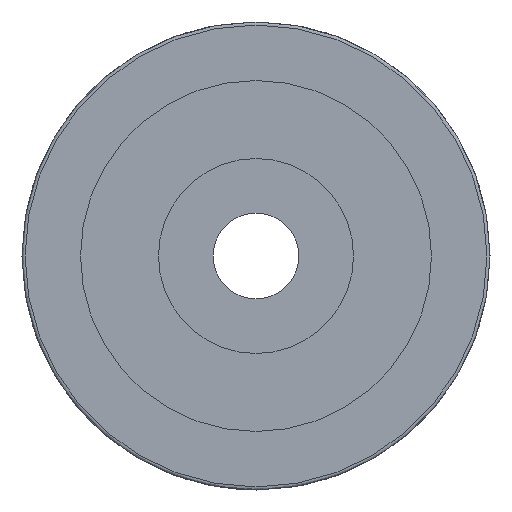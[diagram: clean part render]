
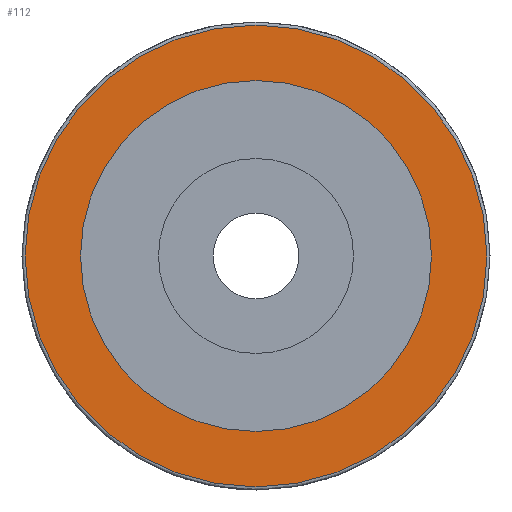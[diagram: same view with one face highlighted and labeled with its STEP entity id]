
A CAD part, left-side view. The second image highlights one B-rep face of the part: STEP entity #112.
In plain terms, the highlighted planar face has unit normal (-1, 0, 0).
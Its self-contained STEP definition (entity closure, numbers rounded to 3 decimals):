
#55=CARTESIAN_POINT('',(-525.136,-488.109,-45.));
#56=VERTEX_POINT('',#55);
#63=CARTESIAN_POINT('',(-525.136,-488.109,45.));
#64=VERTEX_POINT('',#63);
#65=CARTESIAN_POINT('',(-525.136,-488.109,0.0));
#66=DIRECTION('',(1.0,0.0,0.0));
#67=DIRECTION('',(0.0,0.0,-1.0));
#68=AXIS2_PLACEMENT_3D('',#65,#66,#67);
#69=CIRCLE('',#68,45.);
#70=EDGE_CURVE('',#64,#56,#69,.T.);
#72=CARTESIAN_POINT('',(-525.136,-488.109,0.0));
#73=DIRECTION('',(1.0,0.0,0.0));
#74=DIRECTION('',(0.0,0.0,-1.0));
#75=AXIS2_PLACEMENT_3D('',#72,#73,#74);
#76=CIRCLE('',#75,45.);
#77=EDGE_CURVE('',#56,#64,#76,.T.);
#83=CARTESIAN_POINT('',(-525.136,-606.509,118.4));
#84=DIRECTION('',(-1.0,0.0,0.0));
#85=DIRECTION('',(0.0,1.0,0.0));
#86=AXIS2_PLACEMENT_3D('',#83,#84,#85);
#87=PLANE('',#86);
#88=CARTESIAN_POINT('',(-525.136,-488.109,59.2));
#89=VERTEX_POINT('',#88);
#90=CARTESIAN_POINT('',(-525.136,-488.109,-59.2));
#91=VERTEX_POINT('',#90);
#92=CARTESIAN_POINT('',(-525.136,-488.109,0.0));
#93=DIRECTION('',(1.0,0.0,0.0));
#94=DIRECTION('',(0.0,0.0,-1.0));
#95=AXIS2_PLACEMENT_3D('',#92,#93,#94);
#96=CIRCLE('',#95,59.2);
#97=EDGE_CURVE('',#89,#91,#96,.T.);
#98=ORIENTED_EDGE('',*,*,#97,.F.);
#99=CARTESIAN_POINT('',(-525.136,-488.109,0.0));
#100=DIRECTION('',(1.0,0.0,0.0));
#101=DIRECTION('',(0.0,0.0,-1.0));
#102=AXIS2_PLACEMENT_3D('',#99,#100,#101);
#103=CIRCLE('',#102,59.2);
#104=EDGE_CURVE('',#91,#89,#103,.T.);
#105=ORIENTED_EDGE('',*,*,#104,.F.);
#106=EDGE_LOOP('',(#98,#105));
#107=FACE_OUTER_BOUND('',#106,.T.);
#108=ORIENTED_EDGE('',*,*,#77,.T.);
#109=ORIENTED_EDGE('',*,*,#70,.T.);
#110=EDGE_LOOP('',(#108,#109));
#111=FACE_BOUND('',#110,.T.);
#112=ADVANCED_FACE('',(#107,#111),#87,.T.);
